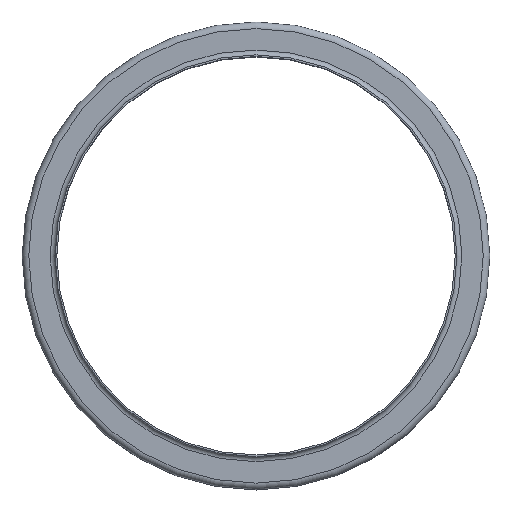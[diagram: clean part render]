
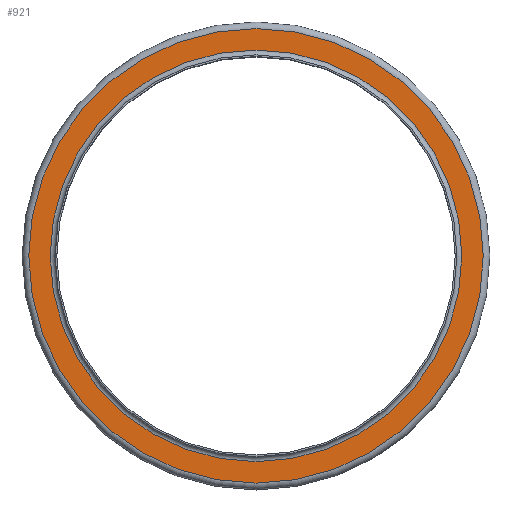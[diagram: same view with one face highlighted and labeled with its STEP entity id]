
A CAD part, top view. The second image highlights one B-rep face of the part: STEP entity #921.
In plain terms, the highlighted planar face has unit normal (0, 0, 1).
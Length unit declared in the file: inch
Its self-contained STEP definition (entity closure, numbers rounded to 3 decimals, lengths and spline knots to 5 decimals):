
#98=FACE_BOUND('',#272,.T.);
#165=FACE_OUTER_BOUND('',#271,.T.);
#271=EDGE_LOOP('',(#772));
#272=EDGE_LOOP('',(#773));
#385=CIRCLE('',#1110,4.4555);
#386=CIRCLE('',#1112,4.9195);
#466=VERTEX_POINT('',#1734);
#467=VERTEX_POINT('',#1738);
#571=EDGE_CURVE('',#466,#466,#385,.T.);
#572=EDGE_CURVE('',#467,#467,#386,.T.);
#772=ORIENTED_EDGE('',*,*,#572,.F.);
#773=ORIENTED_EDGE('',*,*,#571,.T.);
#854=PLANE('',#1111);
#921=ADVANCED_FACE('',(#165,#98),#854,.T.);
#1110=AXIS2_PLACEMENT_3D('',#1736,#1446,#1447);
#1111=AXIS2_PLACEMENT_3D('',#1737,#1448,#1449);
#1112=AXIS2_PLACEMENT_3D('',#1739,#1450,#1451);
#1446=DIRECTION('center_axis',(0.,0.,-1.));
#1447=DIRECTION('ref_axis',(1.,0.,0.));
#1448=DIRECTION('center_axis',(0.,0.,1.));
#1449=DIRECTION('ref_axis',(1.,0.,0.));
#1450=DIRECTION('center_axis',(0.,0.,-1.));
#1451=DIRECTION('ref_axis',(1.,0.,0.));
#1734=CARTESIAN_POINT('',(4.4555,0.,-0.107));
#1736=CARTESIAN_POINT('Origin',(0.,0.,-0.107));
#1737=CARTESIAN_POINT('Origin',(0.,4.9195,-0.107));
#1738=CARTESIAN_POINT('',(4.9195,0.,-0.107));
#1739=CARTESIAN_POINT('Origin',(0.,0.,-0.107));
